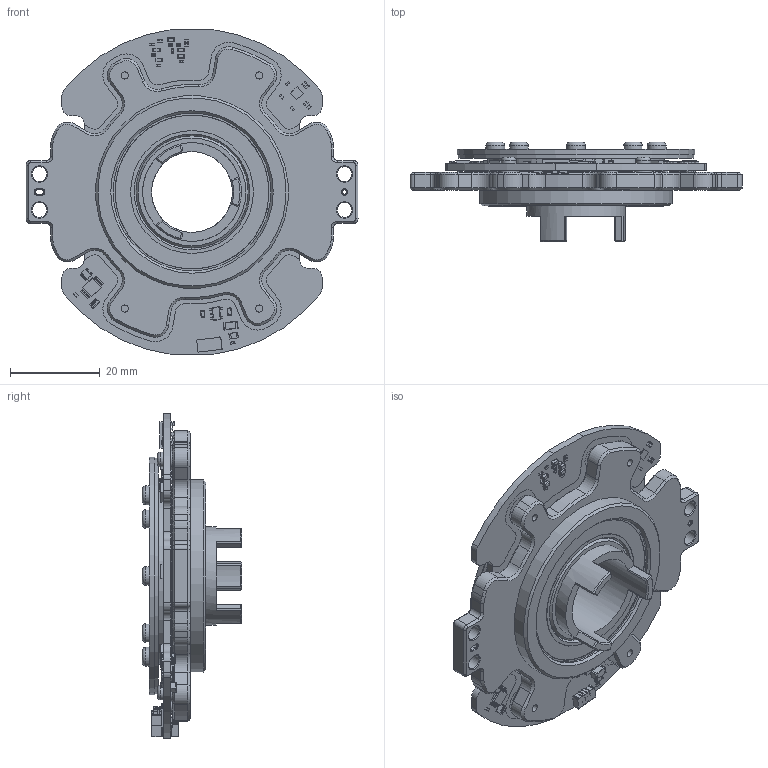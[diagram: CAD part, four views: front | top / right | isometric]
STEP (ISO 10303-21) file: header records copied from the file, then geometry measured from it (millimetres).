
FILE_DESCRIPTION(/* description */ (''),/* implementation_level */ '2;1');
FILE_NAME(/* name */ 'EAS-099 20260722.stp',/* time_stamp */ '2026-07-22T11:18:21+08:00',/* author */ (''),/* organization */ (''),/* preprocessor_version */ 'ST-DEVELOPER v20',/* originating_system */ 'SIEMENS PLM Software NX2312.1700',/* authorisation */ '');
FILE_SCHEMA (('AP203_CONFIGURATION_CONTROLLED_3D_DESIGN_OF_MECHANICAL_PARTS_AND_ASSEMBLIES_MIM_LF { 1 0 10303 403 2 1 2}'));
Products named in the file (1): EAS-099-2_objects
Bounding box: 74 x 22.2 x 72.4 mm (x, y, z)
Volume: 24389.8 mm3; surface area: 26811.2 mm2
Topology: 358 solids, 366 shells, 6342 faces, 15688 edges, 9972 vertices
Faces by surface type: plane 4695, cylinder 1173, sphere 276, cone 163, torus 31, bspline 4
Full cylindrical faces by diameter (mm): 1 x5, 1.6 x4, 2 x4, 2.05 x8, 2.2 x4, 2.5 x8, 2.7 x8, 3 x10, 3.3 x8, 4 x4, 4.2 x8, 18 x1, 22 x1, 23 x1, 25 x2, 27.4 x2, 30.03 x1, 30.04 x1, 30.1 x1, 34.3 x2, 35.2 x1, 37 x5, 39.5 x2, 40 x1, 40.2 x1, 40.5 x1, 43 x1, 52.5 x1, 53 x1
Entity records: 189085 total; most frequent: CARTESIAN_POINT 35510, ORIENTED_EDGE 30516, DIRECTION 30454, EDGE_CURVE 15258, LINE 12544, VECTOR 12544, VERTEX_POINT 9897, AXIS2_PLACEMENT_3D 8955
